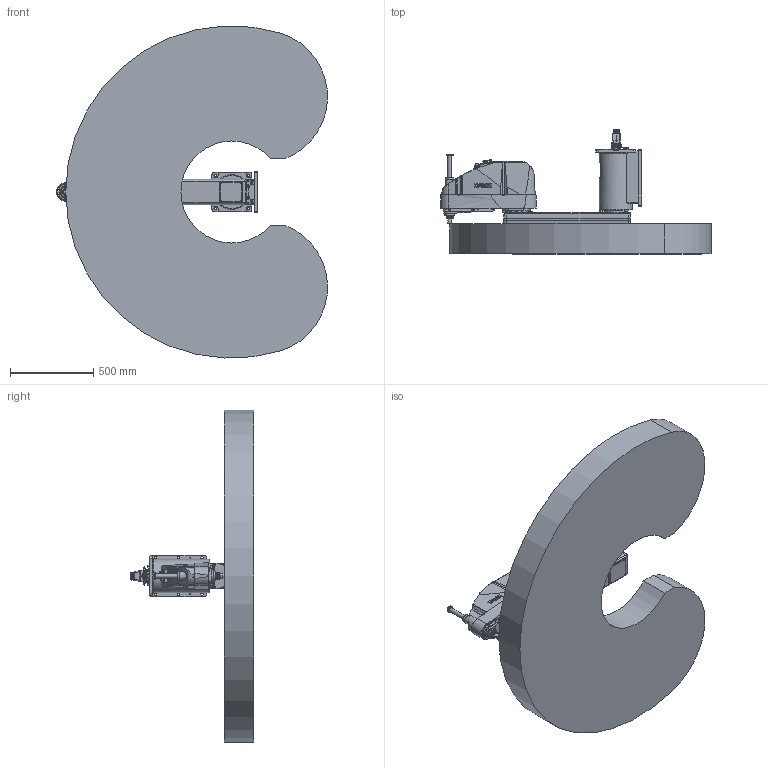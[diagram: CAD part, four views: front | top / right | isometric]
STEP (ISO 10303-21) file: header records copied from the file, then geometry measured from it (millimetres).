
FILE_DESCRIPTION( ( 'STEP AP214' ), '1' );
FILE_NAME( 'C:/Users/9607552/Desktop/GX20-BA01SW_straight.stp', '2023-08-01T09:47:13', ( '' ), ( '' ), ' ', 'PARTsolutions', ' ' );
FILE_SCHEMA( ( 'AUTOMOTIVE_DESIGN { 1 0 10303 214 1 1 1 1 }' ) );
Length unit declared in the file: millimetre
Products named in the file (7): GX20-BA01SWS-W; _Base sw; _Straight-B; _J1 Arm GX10-600 r/w; _J2 Arm GX10-s; _J3 Arm GX10-s (1); _GX10_20B-30_1
Assembly tree (6 placements, depth 2):
  GX20-BA01SWS-W
    _Base sw
    _Straight-B
    _J1 Arm GX10-600 r/w
    _J2 Arm GX10-s
    _J3 Arm GX10-s (1)
    _GX10_20B-30_1
Bounding box: 1630.39 x 745.35 x 1998.16 mm (x, y, z)
Volume: 434033715.8 mm3; surface area: 7249183.2 mm2
Topology: 6 solids, 6 shells, 2555 faces, 6274 edges, 4096 vertices
Faces by surface type: plane 1323, cylinder 800, cone 334, torus 65, bspline 32, sphere 1
Full cylindrical faces by diameter (mm): 1 x24, 1.18 x55, 2.5 x2, 3 x32, 3.242 x10, 3.3 x4, 4.2 x4, 4.8 x4, 5.1 x4, 5.25 x2, 5.34 x8, 5.4 x5, 5.5 x16, 6 x2, 6.2 x4, 6.647 x2, 6.8 x2, 7 x23, 7.59 x8, 8 x9, 8.5 x2, 9 x4, 10 x32, 11 x14, 12 x6, 12.25 x1, 13 x8, 14 x20, 14.25 x1, 16 x6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
Entity records: 96769 total; most frequent: CARTESIAN_POINT 18289, DIRECTION 11976, ORIENTED_EDGE 11132, EDGE_CURVE 5566, AXIS2_PLACEMENT_3D 4608, VERTEX_POINT 4003, EDGE_LOOP 3589, FACE_OUTER_BOUND 2949
